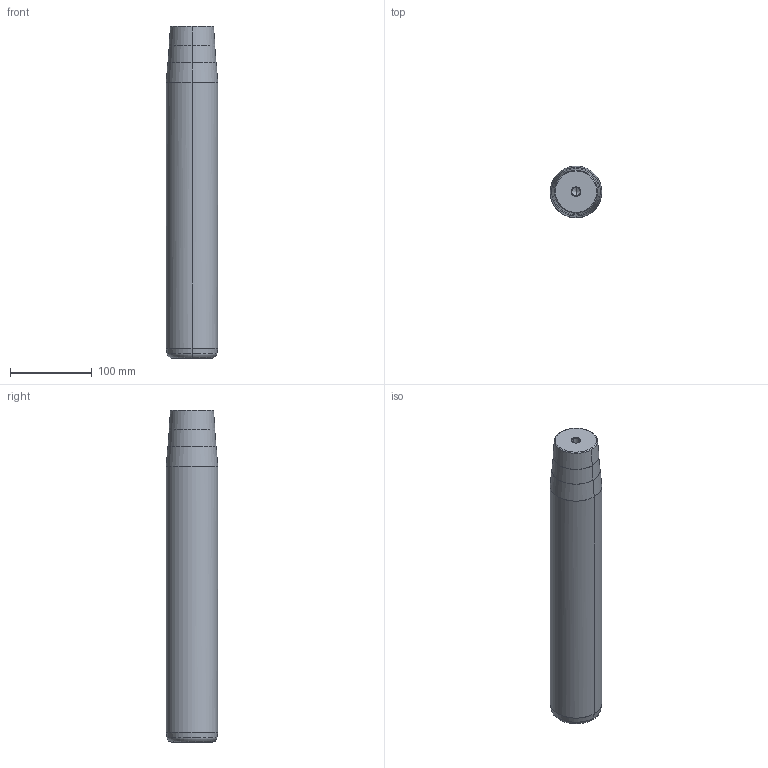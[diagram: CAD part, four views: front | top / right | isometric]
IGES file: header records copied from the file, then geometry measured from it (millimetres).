
Start section: START RECORD GO HERE.
Global section: file name: 722-63x355x406.igs; native system: DASSAULT SYSTEMES CATIA V5 R20 - www.3ds.com; preprocessor: CATIA Version 5 Release 20 ; author: Utente; organization: NB04-ASUS; date: 20210107.202025; units: millimetre
Bounding box: 63 x 63 x 406 mm (x, y, z)
Surface area: 85604 mm2 (no closed solid volume)
Topology: 0 solids, 0 shells, 32 faces, 192 edges, 188 vertices
Faces by surface type: revolution 30, plane 2
